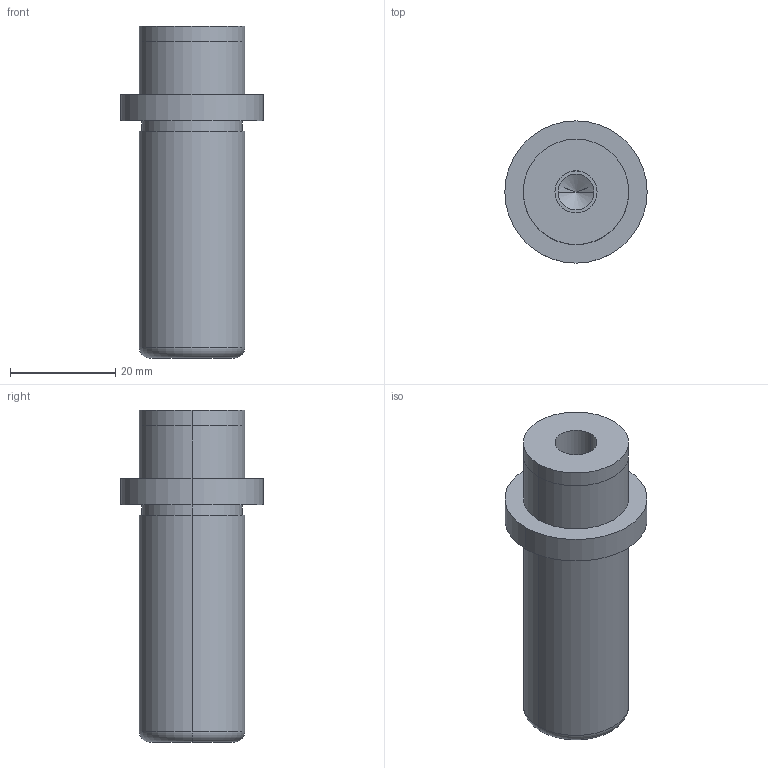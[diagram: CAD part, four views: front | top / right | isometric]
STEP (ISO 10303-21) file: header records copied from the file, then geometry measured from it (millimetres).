
FILE_DESCRIPTION(/* description */ (''),/* implementation_level */ '2;1');
FILE_NAME(/* name */ '3d_sgpr20-50_00292_r00.stp',/* time_stamp */ '2011-01-10T14:11:06+09:00',/* author */ ('MISUMI'),/* organization */ (''),/* preprocessor_version */ 'ST-DEVELOPER v11',/* originating_system */ 'UGS - NX 5.0',/* authorisation */ '');
FILE_SCHEMA (('CONFIG_CONTROL_DESIGN'));
Length unit declared in the file: millimetre
Products named in the file (1): 3d_sgpr20-50_00292_r00
Bounding box: 27 x 27 x 63 mm (x, y, z)
Volume: 19833.2 mm3; surface area: 5785.1 mm2
Topology: 1 solids, 1 shells, 24 faces, 48 edges, 29 vertices
Faces by surface type: cylinder 14, plane 6, cone 2, torus 2
Entity records: 706 total; most frequent: DIRECTION 126, CARTESIAN_POINT 100, ORIENTED_EDGE 92, AXIS2_PLACEMENT_3D 55, EDGE_CURVE 46, CIRCLE 30, EDGE_LOOP 29, VERTEX_POINT 29
